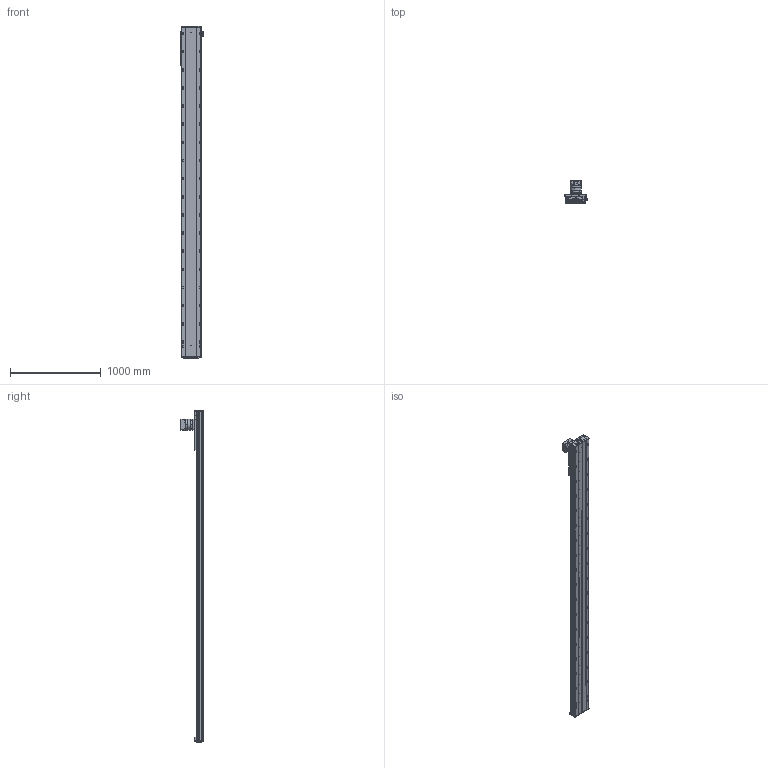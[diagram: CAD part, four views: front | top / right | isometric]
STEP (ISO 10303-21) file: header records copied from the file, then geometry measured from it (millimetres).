
FILE_DESCRIPTION (( 'STEP AP203' ), '1' );
FILE_NAME ('RY220-C-300-UK.SLDASM_3150.step', '2022-08-01T06:00:48', ( '' ), ( '' ), 'SwSTEP 2.0', 'SolidWorks 2016', '' );
FILE_SCHEMA (( 'CONFIG_CONTROL_DESIGN' ));
Length unit declared in the file: millimetre
Products named in the file (10): RY220喘沭俋离覜茼え; RY220喘沭綴裔啣; 覜茼ん674; RY220菁釱MK-300_3150; PF115L1-S2-22-58-110-145-M8; RY140直线电机感应器674光电安装座; RY220喘沭賑輸; RY220-C-300-UK.SLDASM_3150; RY220-齿条模组电机安装板; 滅袉蝶輸ㄗG412隅秶ㄘ
Assembly tree (12 placements, depth 2):
  RY220-C-300-UK.SLDASM_3150
    RY220菁釱MK-300_3150
    RY220喘沭賑輸
    RY220-齿条模组电机安装板
    PF115L1-S2-22-58-110-145-M8
    RY220喘沭綴裔啣  x2
    滅袉蝶輸ㄗG412隅秶ㄘ  x2
    RY140直线电机感应器674光电安装座
    覜茼ん674  x2
    RY220喘沭俋离覜茼え
Bounding box: 247 x 244.5 x 3659 mm (x, y, z)
Volume: 23961804.4 mm3; surface area: 4962016.7 mm2
Topology: 18 solids, 26 shells, 2480 faces, 6697 edges, 4161 vertices
Faces by surface type: cylinder 1229, plane 751, cone 338, bspline 162
Entity records: 79109 total; most frequent: CARTESIAN_POINT 21401, DIRECTION 11983, ORIENTED_EDGE 11618, EDGE_CURVE 5809, AXIS2_PLACEMENT_3D 4611, VERTEX_POINT 3787, EDGE_LOOP 2936, VECTOR 2761
